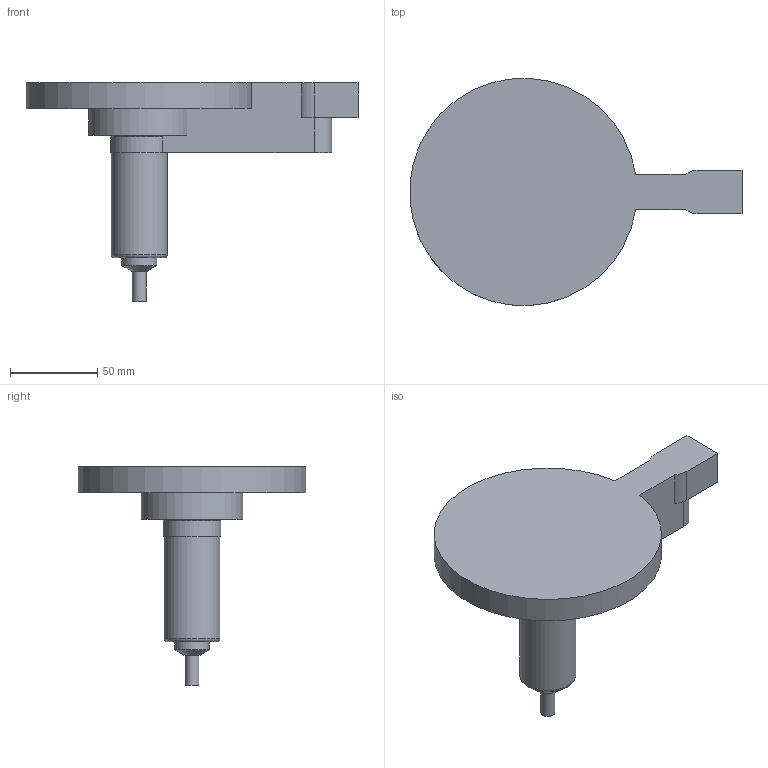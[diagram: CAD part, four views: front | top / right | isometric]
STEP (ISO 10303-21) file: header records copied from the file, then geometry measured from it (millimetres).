
FILE_DESCRIPTION( ( 'STEP AP214' ), '1' );
FILE_NAME( 'S:/PROIECTE_YUDO_2010/PROIECTE YUDO 2010 3D/BLS/YUEU10-BLS18CAE080/YUEU10-BLS18CAE080_cutout.step', '2010-03-23T14:35:18', ( ' ' ), ( ' ' ), 'XStep 1.0', ' ', ' ' );
FILE_SCHEMA( ( 'automotive_design' ) );
Length unit declared in the file: millimetre
Products named in the file (1): 1
Bounding box: 189.76 x 129.83 x 125 mm (x, y, z)
Volume: 363482.9 mm3; surface area: 52160.8 mm2
Topology: 1 solids, 1 shells, 24 faces, 57 edges, 37 vertices
Faces by surface type: plane 12, cylinder 9, cone 2, torus 1
Full cylindrical faces by diameter (mm): 8 x1, 20 x1, 32 x1
Entity records: 882 total; most frequent: CARTESIAN_POINT 120, DIRECTION 120, ORIENTED_EDGE 104, EDGE_CURVE 52, AXIS2_PLACEMENT_3D 45, VERTEX_POINT 37, EDGE_LOOP 31, LINE 30
